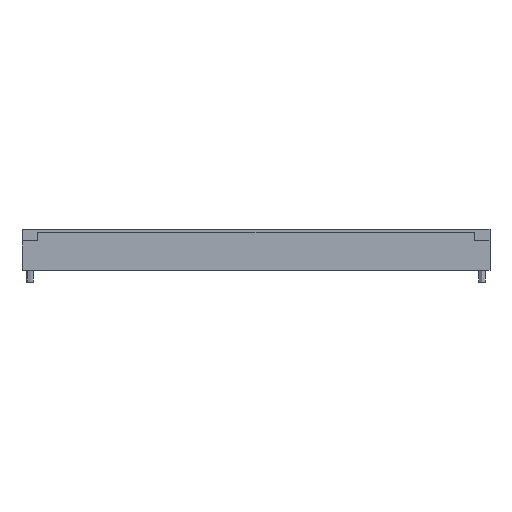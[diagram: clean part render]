
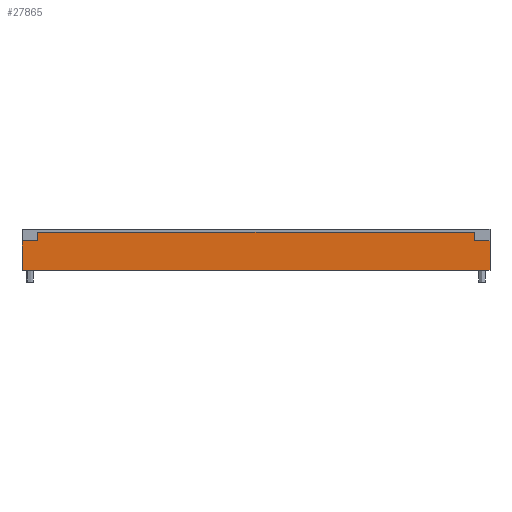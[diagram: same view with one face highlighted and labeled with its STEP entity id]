
A CAD part, front view. The second image highlights one B-rep face of the part: STEP entity #27865.
In plain terms, the highlighted planar face has unit normal (0, -1, 0) as drawn and (0, 0, 1) by its records, which use the part's own axes.
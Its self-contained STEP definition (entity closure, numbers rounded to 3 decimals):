
#13137 = EDGE_CURVE ( 'NONE', #110953, #289921, #165417, .T. ) ;
#14072 = CARTESIAN_POINT ( 'NONE',  ( 126., 22., 25. ) ) ;
#15161 = ORIENTED_EDGE ( 'NONE', *, *, #322446, .T. ) ;
#16846 = FACE_OUTER_BOUND ( 'NONE', #217884, .T. ) ;
#19635 = ORIENTED_EDGE ( 'NONE', *, *, #13137, .F. ) ;
#27865 = ADVANCED_FACE ( 'NONE', ( #16846 ), #256505, .F. ) ;
#32836 = VECTOR ( 'NONE', #119754, 1000. ) ;
#33785 = CARTESIAN_POINT ( 'NONE',  ( 135., 17., 25. ) ) ;
#40340 = EDGE_CURVE ( 'NONE', #238629, #110953, #349777, .T. ) ;
#44478 = DIRECTION ( 'NONE',  ( 0., -1., 0. ) ) ;
#44690 = VERTEX_POINT ( 'NONE', #87305 ) ;
#51856 = EDGE_CURVE ( 'NONE', #228833, #376409, #267680, .T. ) ;
#62717 = LINE ( 'NONE', #182651, #32836 ) ;
#64474 = AXIS2_PLACEMENT_3D ( 'NONE', #221200, #225069, #378574 ) ;
#87305 = CARTESIAN_POINT ( 'NONE',  ( 135., 17., 25. ) ) ;
#100825 = EDGE_CURVE ( 'NONE', #238629, #108155, #62717, .T. ) ;
#104724 = VECTOR ( 'NONE', #238180, 1000. ) ;
#105772 = EDGE_CURVE ( 'NONE', #44690, #376409, #191871, .T. ) ;
#108155 = VERTEX_POINT ( 'NONE', #329080 ) ;
#110953 = VERTEX_POINT ( 'NONE', #173674 ) ;
#118398 = CARTESIAN_POINT ( 'NONE',  ( -135., 0., 25. ) ) ;
#119754 = DIRECTION ( 'NONE',  ( 0., -1., 0. ) ) ;
#128142 = CARTESIAN_POINT ( 'NONE',  ( -126., 22., 25. ) ) ;
#133538 = DIRECTION ( 'NONE',  ( 1., 0., 0. ) ) ;
#137590 = ORIENTED_EDGE ( 'NONE', *, *, #40340, .F. ) ;
#139807 = ORIENTED_EDGE ( 'NONE', *, *, #105772, .F. ) ;
#147289 = DIRECTION ( 'NONE',  ( 0., -1., 0. ) ) ;
#147464 = VECTOR ( 'NONE', #133538, 1000. ) ;
#165417 = LINE ( 'NONE', #14072, #288152 ) ;
#168402 = VECTOR ( 'NONE', #147289, 1000. ) ;
#173674 = CARTESIAN_POINT ( 'NONE',  ( 126., 22., 25. ) ) ;
#176812 = LINE ( 'NONE', #296683, #168402 ) ;
#182651 = CARTESIAN_POINT ( 'NONE',  ( -126., 22., 25. ) ) ;
#191810 = CARTESIAN_POINT ( 'NONE',  ( -135., 17., 25. ) ) ;
#191871 = LINE ( 'NONE', #372852, #359647 ) ;
#206778 = VECTOR ( 'NONE', #275370, 1000. ) ;
#209836 = VECTOR ( 'NONE', #223145, 1000. ) ;
#217884 = EDGE_LOOP ( 'NONE', ( #139807, #273014, #19635, #137590, #357540, #246304, #15161, #308238 ) ) ;
#221200 = CARTESIAN_POINT ( 'NONE',  ( -135., 3., 25. ) ) ;
#223145 = DIRECTION ( 'NONE',  ( 1., 0., 0. ) ) ;
#225069 = DIRECTION ( 'NONE',  ( 0., 0., -1. ) ) ;
#228833 = VERTEX_POINT ( 'NONE', #260670 ) ;
#230901 = EDGE_CURVE ( 'NONE', #44690, #289921, #334461, .T. ) ;
#238180 = DIRECTION ( 'NONE',  ( 1., 0., 0. ) ) ;
#238629 = VERTEX_POINT ( 'NONE', #128142 ) ;
#246304 = ORIENTED_EDGE ( 'NONE', *, *, #292686, .F. ) ;
#255257 = CARTESIAN_POINT ( 'NONE',  ( -126., 22., 25. ) ) ;
#256505 = PLANE ( 'NONE',  #64474 ) ;
#260670 = CARTESIAN_POINT ( 'NONE',  ( -135., 0., 25. ) ) ;
#267680 = LINE ( 'NONE', #118398, #104724 ) ;
#273014 = ORIENTED_EDGE ( 'NONE', *, *, #230901, .T. ) ;
#275370 = DIRECTION ( 'NONE',  ( -1., 0., 0. ) ) ;
#278324 = LINE ( 'NONE', #191810, #209836 ) ;
#288152 = VECTOR ( 'NONE', #310905, 1000. ) ;
#289921 = VERTEX_POINT ( 'NONE', #369438 ) ;
#292686 = EDGE_CURVE ( 'NONE', #337728, #108155, #278324, .T. ) ;
#296683 = CARTESIAN_POINT ( 'NONE',  ( -135., 3., 25. ) ) ;
#308238 = ORIENTED_EDGE ( 'NONE', *, *, #51856, .T. ) ;
#309375 = CARTESIAN_POINT ( 'NONE',  ( -135., 17., 25. ) ) ;
#310905 = DIRECTION ( 'NONE',  ( 0., -1., 0. ) ) ;
#322446 = EDGE_CURVE ( 'NONE', #337728, #228833, #176812, .T. ) ;
#329080 = CARTESIAN_POINT ( 'NONE',  ( -126., 17., 25. ) ) ;
#334461 = LINE ( 'NONE', #33785, #206778 ) ;
#337728 = VERTEX_POINT ( 'NONE', #309375 ) ;
#349777 = LINE ( 'NONE', #255257, #147464 ) ;
#357540 = ORIENTED_EDGE ( 'NONE', *, *, #100825, .T. ) ;
#359647 = VECTOR ( 'NONE', #44478, 1000. ) ;
#369438 = CARTESIAN_POINT ( 'NONE',  ( 126., 17., 25. ) ) ;
#372852 = CARTESIAN_POINT ( 'NONE',  ( 135., 3., 25. ) ) ;
#376409 = VERTEX_POINT ( 'NONE', #382000 ) ;
#378574 = DIRECTION ( 'NONE',  ( -1., 0., 0. ) ) ;
#382000 = CARTESIAN_POINT ( 'NONE',  ( 135., 0., 25. ) ) ;
